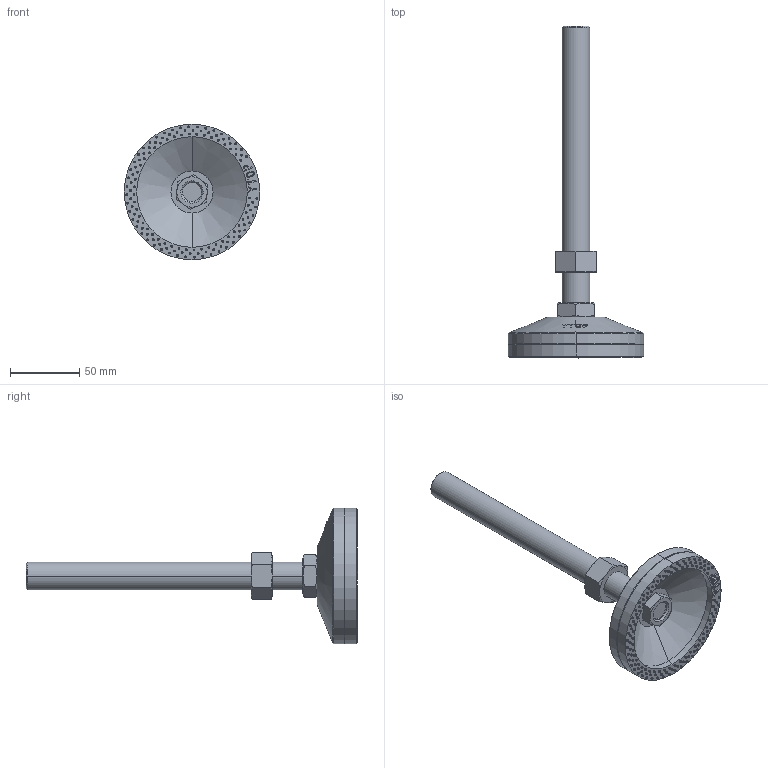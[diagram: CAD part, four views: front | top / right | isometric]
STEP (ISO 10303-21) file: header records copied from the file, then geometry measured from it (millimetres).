
FILE_DESCRIPTION (( 'STEP AP203' ), '1' );
FILE_NAME ('AH-100-20200-TPU.STEP', '2020-09-09T03:59:49', ( '' ), ( '' ), 'SwSTEP 2.0', 'SolidWorks 2016', '' );
FILE_SCHEMA (( 'CONFIG_CONTROL_DESIGN' ));
Length unit declared in the file: millimetre
Products named in the file (6): AH-100菁釱; AH-100蝶菜; 傲郈蹟裝M20炵蹈_M20X200; AH-100-20200-TPU; 脚垫锁紧六角薄螺母M16; 脚垫调节六角螺母M20
Assembly tree (5 placements, depth 2):
  AH-100-20200-TPU
    AH-100菁釱
    AH-100蝶菜
    傲郈蹟裝M20炵蹈_M20X200
    脚垫锁紧六角薄螺母M16
    脚垫调节六角螺母M20
Bounding box: 98 x 239.9 x 98 mm (x, y, z)
Volume: 187898.2 mm3; surface area: 58975 mm2
Topology: 5 solids, 5 shells, 723 faces, 2043 edges, 1215 vertices
Faces by surface type: cylinder 280, sphere 262, cone 66, plane 65, bspline 50
Entity records: 24946 total; most frequent: CARTESIAN_POINT 8540, DIRECTION 3559, ORIENTED_EDGE 3038, AXIS2_PLACEMENT_3D 1567, EDGE_CURVE 1519, VERTEX_POINT 953, CIRCLE 886, EDGE_LOOP 878
